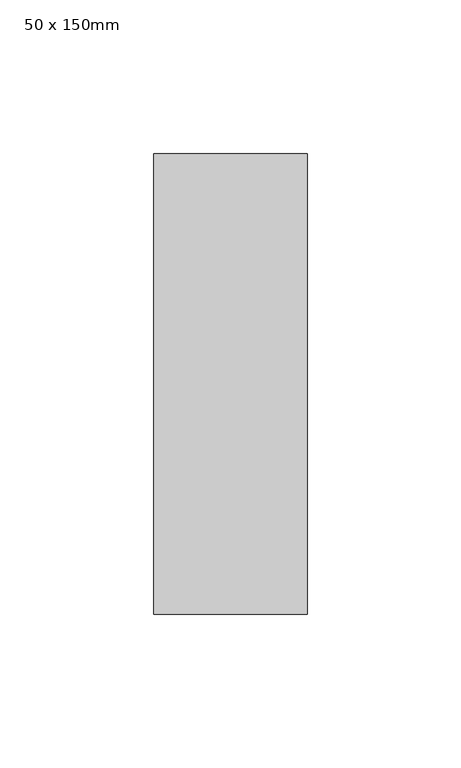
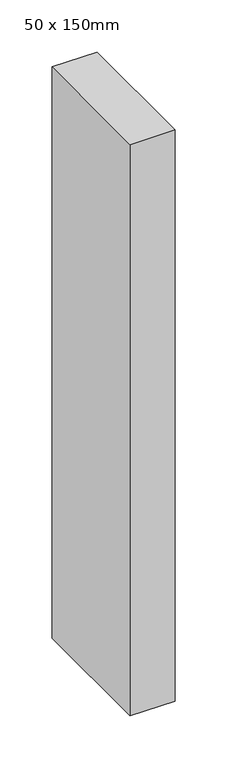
"""IFC4 building model written with IfcOpenShell, lengths in millimetres: member geometry, Прямоугольный импост : 50 x 150mm."""

from ifc_helpers import new_model, si_unit, frame, origin, place, context, project, spatial, polyline, outline, extrude, source, transform, mapped, element, save


def member_50_x_150mm_cece93f5(model_context):
    return source(origin(), model_context, "Body", "SweptSolid", [
        extrude(outline(polyline([(0.0, 75.0), (0.0, -75.0), (-50.0, -75.0), (-50.0, 75.0), (0.0, 75.0)])), frame((0.0, 0.0, -670.0), z_axis=(0.0, 0.0, 1.0), x_axis=(1.0, 0.0, 0.0)), (0.0, 0.0, 1.0), 670.0),
    ])


if __name__ == "__main__":
    model = new_model("IFC4")
    model_context = context("Model", 3, world=origin())
    ifc_project = project(units=[si_unit("LENGTHUNIT", "METRE", prefix="MILLI")], contexts=[model_context])
    site = spatial("IfcSite", under=ifc_project)
    building = spatial("IfcBuilding", under=site)
    placement = place(None, origin())
    member_50_x_150mm_shape = member_50_x_150mm_cece93f5(model_context)
    element("IfcMember", 1, ObjectType="Прямоугольный импост : 50 x 150mm", at=placement, inside=building, context=model_context, shape_type="MappedRepresentation", body=[
        mapped(member_50_x_150mm_shape, transform((0.0, 0.0, 0.0), x_axis=(1.0, 0.0, 0.0), y_axis=(0.0, 1.0, 0.0), z_axis=(0.0, 0.0, 1.0))),
    ])
    save(model, "model.ifc")
